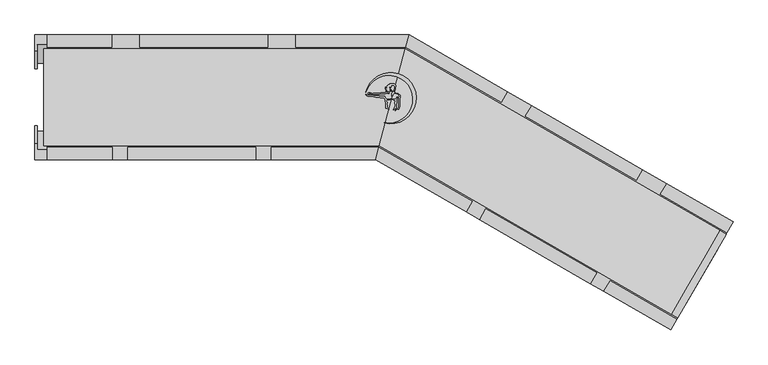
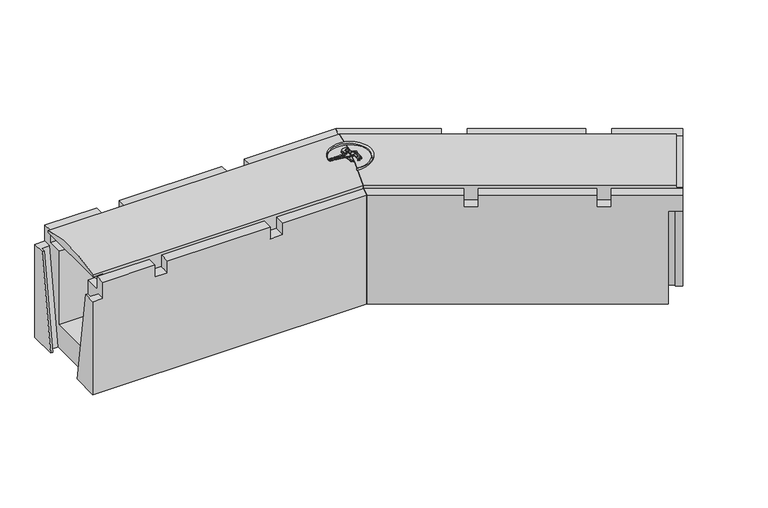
"""IFC4 building model written with IfcOpenShell, lengths in millimetres: cable carrier fitting geometry, Evotray type 1 horizontal bend : Evotray type 1 horizontal bend."""

from ifc_helpers import new_model, si_unit, point, frame, frame_2d, origin, place, context, project, spatial, polyline, circle_curve, ellipse_curve, trimmed, segment, composite_curve, outline, extrude, faceted_brep, source, transform, mapped, element, save
from ifc_brep_helpers import plane_surface, cylinder_surface, advanced_brep


def cable_carrier_fitting_ffa84dba(model_context):
    return source(origin(), model_context, "Body", "SolidModel", [
        extrude(outline(composite_curve([segment(polyline([(77.8454352, 7.5339815), (79.2711262, 6.7108584), (78.5621949, 6.3015567), (75.9972651, 6.3015567), (73.5377718, 3.8420634), (73.5377718, 2.2583954), (72.4802578, 1.9750354), (72.1488907, 3.2117144), (72.4711121, 4.414261), (72.4711121, 6.6410761), (73.9376527, 8.1076167), (73.5377718, 8.8002309), (72.4711121, 9.4160672), (71.6128402, 9.9115907), (70.6197166, 10.9047143), (70.6197166, 12.1547711), (71.4075108, 11.6999379), (72.4711121, 10.6363367), (73.5377718, 10.0205004), (75.8505364, 10.0205004), (76.4824351, 10.6523991), (76.4824351, 12.2608037), (76.8882921, 12.9637687), (77.1278621, 13.8578561), (77.1278621, 17.953291), (76.4824351, 18.598718), (72.4711121, 18.9496633), (71.722948, 18.5177106), (71.2910994, 17.769727), (71.068706, 16.9397435), (70.7959896, 15.393092), (70.2399679, 15.9491137), (69.674312, 16.5147695), (68.7137771, 16.5147695), (68.2393377, 15.6930164), (68.2393377, 14.868111), (68.6413849, 14.1717449), (69.3690796, 13.4440503), (68.9724402, 11.9637721), (68.6349402, 10.7042051), (68.9377477, 8.9868987), (68.1369546, 8.8456973), (66.4065093, 9.3093687), (65.1598, 9.8907188), (64.4065429, 10.2419684), (62.8070943, 9.9599424), (63.2746527, 10.7697774), (64.9314737, 11.3728109)]), True, "CONTINUOUS"), segment(trimmed(circle_curve(frame_2d((64.3653461, 11.1008716)), 0.6280537), [point((64.9314737, 11.3728109))], [point((64.209764, 11.7093497))], True, "CARTESIAN"), True, "CONTINUOUS"), segment(polyline([(64.209764, 11.7093497), (62.2627489, 11.7093497), (62.820927, 12.2675278), (63.6717068, 12.5771863), (64.4901463, 12.875074)]), True, "CONTINUOUS"), segment(trimmed(circle_curve(frame_2d((63.7518214, 12.875074)), 0.7383249), [point((64.4901463, 12.875074))], [point((63.7518214, 13.6133989))], True, "CARTESIAN"), True, "CONTINUOUS"), segment(polyline([(63.7518214, 13.6133989), (62.0440737, 13.6133989), (61.6525521, 14.2915342), (63.4711442, 14.612201), (64.7674822, 15.0840295), (64.1467296, 15.7047821), (62.18351, 15.7047821), (62.7360925, 16.2573646), (63.7659252, 16.8519388), (64.4406496, 17.5266631), (65.1634669, 17.9439819), (66.1384789, 18.5069053)]), True, "CONTINUOUS"), segment(trimmed(circle_curve(frame_2d((65.9274935, 18.8723428)), 0.4219708), [point((66.1384789, 18.5069053))], [point((65.7165081, 19.2377802))], True, "CARTESIAN"), True, "CONTINUOUS"), segment(polyline([(65.7165081, 19.2377802), (66.3339047, 19.8551768), (67.6365747, 20.3293099), (68.6316313, 20.9038061), (69.7631679, 21.1033266), (69.4093421, 22.0754549), (74.4093421, 22.0754549), (75.4235159, 21.6025379), (76.5453709, 21.3019378), (77.559817, 20.716247), (78.6684934, 19.6075706), (78.6684934, 17.0415553), (78.1795763, 16.1947259), (78.1795763, 13.46269), (77.6905414, 12.4139512), (77.2837395, 11.7093497), (77.2837395, 9.8605854), (76.4824351, 9.3979521), (75.6491566, 9.2510226)]), True, "CONTINUOUS"), segment(trimmed(circle_curve(frame_2d((76.7021081, 8.9688851)), 1.0900956), [point((75.6491566, 9.2510226))], [point((76.4199706, 7.9159336))], True, "CARTESIAN"), True, "CONTINUOUS"), segment(polyline([(76.4199706, 7.9159336), (77.8454352, 7.5339815)]), True, "CONTINUOUS")], self_intersect=False)), frame((0.0, 0.0, 223.75), z_axis=(0.0, 0.0, 1.0), x_axis=(1.0, 0.0, 0.0)), (0.0, 0.0, 1.0), 22.5),
        extrude(outline(polyline([(82.4021444, 4.6789788), (80.4795004, 5.7890178), (81.6687405, 6.1076737), (83.0435959, 5.6072673), (85.1697451, 4.3797345), (85.5813945, 2.8434379), (85.5813945, 0.0702487), (85.1630136, -2.3025073), (84.8368765, -11.6418533), (84.8368765, -14.4967502), (84.2772285, -17.6706715), (83.1182044, -18.8296956), (82.2207158, -18.8296956), (82.89559, -16.975494), (83.2045456, -15.2233198), (83.7190029, -12.3056877), (83.7190029, -1.066223), (84.1606375, 1.4384114), (83.6181606, 3.4629626), (82.4021444, 4.6789788)])), frame((0.0, 0.0, 223.75), z_axis=(0.0, 0.0, 1.0), x_axis=(1.0, 0.0, 0.0)), (0.0, 0.0, 1.0), 22.5),
        extrude(outline(composite_curve([segment(polyline([(74.9738955, -2.929042), (76.9560969, -2.929042), (78.4243612, -2.6701473), (79.7296433, -1.3648653), (80.9097521, 1.1658863), (81.3907041, -0.1555184), (80.7679964, -1.4909195), (80.0973889, -2.929042), (80.0973889, -8.8872378), (79.6690098, -11.3166965), (79.6690098, -19.7978385), (78.2203511, -21.2464971), (77.6476139, -20.6737599), (78.3263339, -18.9313898), (78.5844792, -17.4673747)]), True, "CONTINUOUS"), segment(trimmed(circle_curve(frame_2d((78.1698312, -17.4673747)), 0.414648), [point((78.5844792, -17.4673747))], [point((77.7551832, -17.4673747))], True, "CARTESIAN"), True, "CONTINUOUS"), segment(polyline([(77.7551832, -17.4673747), (76.9894944, -18.2330635), (75.7226479, -19.7428323), (75.0671389, -20.3983414), (74.2748176, -20.0288759), (76.4390375, -16.820288), (76.7449472, -15.0853881), (77.5870051, -13.2795892), (77.8442126, -11.8208929), (77.0557039, -10.4551557), (77.0557039, -7.6886085), (78.3788523, -5.8190518)]), True, "CONTINUOUS"), segment(trimmed(circle_curve(frame_2d((78.0417473, -5.5804712)), 0.4129897), [point((78.3788523, -5.8190518))], [point((77.8031667, -5.2433662))], True, "CARTESIAN"), True, "CONTINUOUS"), segment(polyline([(77.8031667, -5.2433662), (75.7993517, -4.8900395), (74.3554552, -4.2167395), (72.5354546, -3.3680593), (72.5354546, -2.499079), (74.9738955, -2.929042)]), True, "CONTINUOUS")], self_intersect=False)), frame((0.0, 0.0, 223.75), z_axis=(0.0, 0.0, 1.0), x_axis=(1.0, 0.0, 0.0)), (0.0, 0.0, 1.0), 22.5),
        extrude(outline(composite_curve([segment(polyline([(32.5622996, 3.8801527), (34.2979734, 3.0707947), (38.4844473, 3.0707947), (39.5551684, 3.3576935), (40.8817061, 3.3576935), (42.6028149, 3.0707947), (44.6091369, 2.5332023), (45.762325, 2.2242065), (51.4542317, 2.2242065), (54.0707276, 1.7880518), (55.3982903, 1.4323324), (61.0125326, 1.4323324)]), True, "CONTINUOUS"), segment(trimmed(circle_curve(frame_2d((69.8660987, 4.337939)), 9.3181642), [point((61.0125326, 1.4323324))], [point((64.3668003, -3.184421))], True, "CARTESIAN"), True, "CONTINUOUS"), segment(polyline([(64.3668003, -3.184421), (67.4185851, -3.184421), (69.4531637, -3.0064185), (70.5921676, -2.4752922), (70.3346477, -3.4363696), (69.3905534, -3.9814427), (68.4318665, -4.3303762), (65.1971615, -4.2174178), (64.0084669, -4.6500673), (63.5994725, -5.5271586), (63.6745531, -6.3853337), (64.1534373, -7.2147854), (64.8740428, -7.9353909), (64.8740428, -9.6916034), (64.5087425, -10.6952577), (64.6530091, -12.3442325), (65.1581015, -14.2292627), (65.3062206, -15.9222719), (67.6775556, -18.6501808), (67.4688787, -19.8336466), (64.8740428, -17.2388107), (63.9112112, -17.4968007), (62.508035, -17.2493828), (62.7835954, -16.4922869), (62.7835954, -14.2182314), (62.9591992, -13.2223327), (62.7835954, -11.2151718), (62.4079329, -10.1830477), (62.4079329, -8.3578648), (61.9615972, -7.4006948), (61.9615972, -5.0229453), (61.713157, -4.0957537), (61.2611867, -3.3129181), (60.8124749, -2.5357266), (60.1980325, -1.9212842), (59.7641812, -0.9908871), (56.163243, -0.8651396), (53.819091, -0.4743831), (51.7864977, 0.0702487), (48.4448781, 0.4214671), (46.3652651, 0.4214671), (45.0230305, 0.7811177), (43.4994355, 1.1893638), (42.1561822, 1.8157331), (41.1617934, 1.8157331), (38.5103531, 1.8157331), (37.3981089, 1.5177082), (35.534827, 1.713547), (34.0457522, 1.9617671), (32.3724446, 2.7420433), (31.3965182, 3.7179696), (30.7574352, 4.3570527), (30.7574352, 5.1439324), (32.5622996, 3.8801527)]), True, "CONTINUOUS")], self_intersect=False)), frame((0.0, 0.0, 223.75), z_axis=(0.0, 0.0, 1.0), x_axis=(1.0, 0.0, 0.0)), (0.0, 0.0, 1.0), 22.5),
        extrude(outline(composite_curve([segment(polyline([(35.0645322, 5.4241248), (36.0878465, 4.833314), (34.3601861, 5.3529849), (34.0300396, 6.2705486), (34.868364, 7.108873), (37.7411825, 7.108873), (38.7256195, 6.7111347), (39.8161083, 6.2705486), (40.6143019, 5.8097113), (41.874532, 5.8097113), (42.695557, 6.1051225), (43.5808093, 6.6162232), (49.9945143, 6.6162232), (50.8500888, 6.2705486), (51.9204909, 6.2705486), (52.8812111, 6.6162232), (54.0603677, 6.6162232), (54.7787068, 7.0309564), (60.191362, 7.0309564), (60.9516427, 7.3045113), (62.1938007, 7.3045113), (62.7695693, 7.8802798), (64.7271327, 7.8802798), (66.0151338, 7.3598936), (67.0270502, 6.7756634), (67.8314913, 6.4506481)]), True, "CONTINUOUS"), segment(trimmed(circle_curve(frame_2d((67.4241589, 6.2860752)), 0.4393221), [point((67.8314913, 6.4506481))], [point((67.2595859, 5.8787428))], False, "CARTESIAN"), True, "CONTINUOUS"), segment(polyline([(67.2595859, 5.8787428), (66.2438573, 6.2891238), (64.9321995, 6.2891238), (63.6617695, 6.5131349), (62.8497451, 6.2209622), (61.7067712, 5.8097113), (58.3625732, 5.8097113), (57.5714999, 5.3529849), (54.0041796, 5.3529849), (53.1213173, 4.8432641), (43.1213173, 4.8432641), (40.5106532, 4.6148606), (36.8221255, 6.1051225), (34.671358, 6.1051225), (35.0645322, 5.4241248)]), True, "CONTINUOUS")], self_intersect=False)), frame((0.0, 0.0, 223.75), z_axis=(0.0, 0.0, 1.0), x_axis=(1.0, 0.0, 0.0)), (0.0, 0.0, 1.0), 22.5),
        extrude(outline(composite_curve([segment(trimmed(circle_curve(frame_2d((67.6447922, -3.2457098)), 38.3616107), [point((60.2369555, -40.8852785))], [point((30.9332569, 7.8842657))], True, "CARTESIAN"), True, "CONTINUOUS"), segment(trimmed(circle_curve(frame_2d((70.774193, -1.3653761)), 40.900563), [point((30.9332569, 7.8842657))], [point((60.2369555, -40.8852785))], False, "CARTESIAN"), True, "CONTINUOUS")], self_intersect=False)), frame((0.0, 0.0, 223.75), z_axis=(0.0, 0.0, 1.0), x_axis=(1.0, 0.0, 0.0)), (0.0, 0.0, 1.0), 22.5),
        advanced_brep(
        [(530.8652423, -353.7195092, 205.0), (52.4390183, -77.5, 205.0), (93.9711432, 77.5, 205.0), (608.3652423, -219.4855716, 205.0), (608.3652423, -219.4855716, 230.0), (530.8652423, -353.7195092, 230.0), (93.9711432, 77.5, 234.0), (597.9729374, -213.4855716, 234.0), (597.9729374, -213.4855716, 230.0), (52.4390183, -77.5, 234.0), (520.4729374, -347.7195092, 230.0), (520.4729374, -347.7195092, 234.0)],
        [
            (0, 1),
            (1, 2),
            (2, 3),
            (3, 0),
            (3, 4),
            (4, 5),
            (5, 0),
            (2, 6),
            (6, 7),
            (7, 8),
            (8, 4),
            (1, 9),
            (9, 6, ellipse_curve(frame((73.2050808, 0.0, -14.2614294), z_axis=(-0.9659258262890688, 0.2588190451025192, 0.0), x_axis=(-0.2588190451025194, -0.9659258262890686, 0.0)), 269.2514065, 260.0768873)),
            (5, 10),
            (10, 11),
            (11, 9),
            (8, 10),
            (7, 11, circle_curve(frame((559.2229374, -280.6025404, -14.2614294), z_axis=(0.8660254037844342, -0.500000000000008, 0.0), x_axis=(-0.500000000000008, -0.8660254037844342, 0.0)), 260.0768873)),
        ],
        [
            plane_surface(frame((609.6152423, -217.3205081, 205.0), z_axis=(0.0, 0.0, -1.0), x_axis=(-0.5000000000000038, -0.8660254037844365, 0.0))),
            plane_surface(frame((530.8652423, -353.7195092, 246.0), z_axis=(0.8660254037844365, -0.5000000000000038, 0.0), x_axis=(0.0, 0.0, -1.0))),
            plane_surface(frame((608.3652423, -219.4855716, 246.0), z_axis=(0.5000000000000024, 0.8660254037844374, 0.0), x_axis=(0.0, 0.0, -1.0))),
            plane_surface(frame((93.9711432, 77.5, 246.0), z_axis=(-0.9659258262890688, 0.2588190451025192, 0.0), x_axis=(0.0, 0.0, -1.0))),
            plane_surface(frame((52.4390183, -77.5, 246.0), z_axis=(-0.5000000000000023, -0.8660254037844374, 0.0), x_axis=(0.0, 0.0, -1.0))),
            plane_surface(frame((520.4229374, -347.8061117, 230.0), z_axis=(0.0, 0.0, 1.0), x_axis=(0.5000000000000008, 0.8660254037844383, 0.0))),
            plane_surface(frame((597.9729374, -213.4855716, 246.0), z_axis=(0.8660254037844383, -0.5000000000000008, 0.0), x_axis=(0.0, 0.0, -1.0))),
            cylinder_surface(frame((73.2050808, 0.0, -14.2614294), z_axis=(0.8660254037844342, -0.500000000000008, 0.0), x_axis=(-0.500000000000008, -0.8660254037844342, 0.0)), 260.0768873),
        ],
        [
            (0, [[1, 2, 3, 4]]),
            (1, [[-4, 5, 6, 7]]),
            (2, [[-3, 8, 9, 10, 11, -5]]),
            (3, [[-2, 12, 13, -8]]),
            (4, [[-1, -7, 14, 15, 16, -12]]),
            (5, [[17, -14, -6, -11]]),
            (6, [[-17, -10, 18, -15]]),
            (7, [[-9, -13, -16, -18]]),
        ],
    ),
        advanced_brep(
        [(93.9711432, 77.5, 205.0), (52.4390183, -77.5, 205.0), (-466.0, -77.5, 205.0), (-466.0, 77.5, 205.0), (52.4390183, -77.5, 230.0), (52.4390183, -77.5, 234.0), (-486.0, -77.5, 234.0), (-486.0, -77.5, 230.0), (-466.0, -77.5, 230.0), (93.9711432, 77.5, 230.0), (93.9711432, 77.5, 234.0), (-466.0, 77.5, 230.0), (-486.0, 77.5, 230.0), (-486.0, 77.5, 234.0)],
        [
            (0, 1),
            (1, 2),
            (2, 3),
            (3, 0),
            (1, 4),
            (4, 5),
            (5, 6),
            (6, 7),
            (7, 8),
            (8, 2),
            (0, 9),
            (9, 10),
            (10, 5, ellipse_curve(frame((73.2050808, 0.0, -14.2614294), z_axis=(0.9659258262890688, -0.2588190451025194, 0.0), x_axis=(0.25881904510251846, 0.9659258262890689, 0.0)), 269.2514065, 260.0768873)),
            (3, 11),
            (11, 12),
            (12, 13),
            (13, 10),
            (12, 7),
            (6, 13, circle_curve(frame((-486.0, 0.0, -14.2614294), z_axis=(-1.0, 0.0, 0.0), x_axis=(0.0, -1.0, 0.0)), 260.0768873)),
            (11, 8),
        ],
        [
            plane_surface(frame((-77.5, -77.5, 205.0), z_axis=(0.0, 0.0, -1.0), x_axis=(-1.0, 0.0, 0.0))),
            plane_surface(frame((-486.0, -77.5, 246.0), z_axis=(0.0, -1.0, 0.0), x_axis=(0.0, 0.0, -1.0))),
            plane_surface(frame((52.4390183, -77.5, 246.0), z_axis=(0.9659258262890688, -0.2588190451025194, 0.0), x_axis=(0.0, 0.0, -1.0))),
            plane_surface(frame((93.9711432, 77.5, 246.0), z_axis=(0.0, 1.0, 0.0), x_axis=(0.0, 0.0, -1.0))),
            plane_surface(frame((-486.0, 77.5, 246.0), z_axis=(-1.0, 0.0, 0.0), x_axis=(0.0, 0.0, -1.0))),
            plane_surface(frame((-486.0, 77.5, 230.0), z_axis=(0.0, 0.0, -1.0), x_axis=(-1.0, 0.0, 0.0))),
            plane_surface(frame((-466.0, -77.5, 230.0), z_axis=(-1.0, 0.0, 0.0), x_axis=(0.0, 0.0, -1.0))),
            cylinder_surface(frame((-486.0, 0.0, -14.2614294), z_axis=(1.0, 0.0, 0.0), x_axis=(0.0, -1.0, 0.0)), 260.0768873),
        ],
        [
            (0, [[1, 2, 3, 4]]),
            (1, [[5, 6, 7, 8, 9, 10, -2]]),
            (2, [[-1, 11, 12, 13, -6, -5]]),
            (3, [[-11, -4, 14, 15, 16, 17, -12]]),
            (4, [[18, -8, 19, -16]]),
            (5, [[20, -9, -18, -15]]),
            (6, [[-20, -14, -3, -10]]),
            (7, [[-7, -13, -17, -19]]),
        ],
    ),
        faceted_brep([(51.7691454, -80.0, 230.0), (46.4101615, -100.0, 230.0), (191.3916142, -183.7050808, 230.0), (201.3916142, -166.3845727, 230.0), (100.0, 100.0, 230.0), (94.6410162, 80.0, 230.0), (247.6166235, -8.3205081, 230.0), (257.6166235, 9.0, 230.0), (609.6152423, -217.3205081, 230.0), (619.6152423, -200.0, 230.0), (513.0941176, -138.5, 230.0), (503.0941176, -155.8205081, 230.0), (519.6152423, -373.2050808, 230.0), (529.6152423, -355.8845727, 230.0), (422.2280922, -293.8845727, 230.0), (412.2280922, -311.2050808, 230.0), (474.1229744, -116.0, 230.0), (296.5877667, -13.5, 230.0), (286.5877667, -30.8205081, 230.0), (464.1229744, -133.3205081, 230.0), (213.0422493, -196.2050808, 230.0), (390.5774571, -298.7050808, 230.0), (400.5774571, -281.3845727, 230.0), (223.0422493, -178.8845727, 230.0), (46.4101615, -100.0, 0.0), (100.0, 100.0, 0.0), (597.9646072, -187.5, 0.0), (569.4646072, -236.863448, 0.0), (579.856912, -242.863448, 0.0), (581.056912, -240.784987, 0.0), (592.3152423, -247.284987, 0.0), (546.9152423, -325.9200937, 0.0), (535.656912, -319.4200937, 0.0), (536.856912, -317.3416327, 0.0), (526.4646072, -311.3416327, 0.0), (497.9646072, -360.7050808, 0.0), (257.6166235, 9.0, 205.0), (296.5877667, -13.5, 205.0), (474.1229744, -116.0, 205.0), (513.0941176, -138.5, 205.0), (619.6152423, -200.0, 196.0), (597.9646072, -187.5, 196.0), (51.7691454, -80.0, 205.0), (59.8076211, -50.0, 205.0), (59.8076211, -50.0, 50.0), (86.6025404, 50.0, 50.0), (86.6025404, 50.0, 205.0), (94.6410162, 80.0, 205.0), (497.9646072, -360.7050808, 196.0), (519.6152423, -373.2050808, 196.0), (412.2280922, -311.2050808, 205.0), (390.5774571, -298.7050808, 205.0), (213.0422493, -196.2050808, 205.0), (191.3916142, -183.7050808, 205.0), (529.6152423, -355.8845727, 196.0), (609.6152423, -217.3205081, 196.0), (609.6152423, -217.3205081, 205.0), (594.6152423, -243.3012702, 205.0), (594.6152423, -243.3012702, 50.0), (544.6152423, -329.9038106, 50.0), (544.6152423, -329.9038106, 205.0), (529.6152423, -355.8845727, 205.0), (518.356912, -349.3845727, 196.0), (509.1646072, -341.3061117, 196.0), (519.556912, -347.3061117, 196.0), (598.356912, -210.8205081, 196.0), (597.156912, -212.898969, 196.0), (586.7646072, -206.898969, 196.0), (201.3916142, -166.3845727, 205.0), (223.0422493, -178.8845727, 205.0), (400.5774571, -281.3845727, 205.0), (422.2280922, -293.8845727, 205.0), (503.0941176, -155.8205081, 205.0), (464.1229744, -133.3205081, 205.0), (286.5877667, -30.8205081, 205.0), (247.6166235, -8.3205081, 205.0)], [[[0, 1, 2, 3]], [[4, 5, 6, 7]], [[8, 9, 10, 11]], [[12, 13, 14, 15]], [[16, 17, 18, 19]], [[20, 21, 22, 23]], [[24, 25, 26, 27, 28, 29, 30, 31, 32, 33, 34, 35]], [[25, 4, 7, 36, 37, 17, 16, 38, 39, 10, 9, 40, 41, 26]], [[25, 24, 1, 0, 42, 43, 44, 45, 46, 47, 5, 4]], [[1, 24, 35, 48, 49, 12, 15, 50, 51, 21, 20, 52, 53, 2]], [[12, 49, 54, 31, 30, 55, 40, 9, 8, 56, 57, 58, 59, 60, 61, 13]], [[62, 54, 49, 48, 63, 64]], [[54, 62, 32, 31]], [[55, 65, 66, 67, 41, 40]], [[65, 55, 30, 29]], [[64, 33, 32, 62]], [[64, 63, 34, 33]], [[63, 48, 35, 34]], [[28, 66, 65, 29]], [[67, 66, 28, 27]], [[41, 67, 27, 26]], [[43, 42, 68, 53, 52, 69, 70, 51, 50, 71, 61, 60]], [[47, 46, 57, 56, 72, 39, 38, 73, 74, 37, 36, 75]], [[19, 18, 74, 73]], [[5, 47, 75, 6]], [[56, 8, 11, 72]], [[23, 22, 70, 69]], [[42, 0, 3, 68]], [[13, 61, 71, 14]], [[58, 45, 44, 59]], [[45, 58, 57, 46]], [[59, 44, 43, 60]], [[51, 70, 22, 21]], [[71, 50, 15, 14]], [[75, 36, 7, 6]], [[37, 74, 18, 17]], [[73, 38, 16, 19]], [[39, 72, 11, 10]], [[53, 68, 3, 2]], [[69, 52, 20, 23]]]),
        faceted_brep([(46.4101615, -100.0, 230.0), (51.7691454, -80.0, 230.0), (-121.0, -80.0, 230.0), (-121.0, -100.0, 230.0), (94.6410162, 80.0, 230.0), (100.0, 100.0, 230.0), (-82.0, 100.0, 230.0), (-82.0, 80.0, 230.0), (-127.0, 100.0, 230.0), (-332.0, 100.0, 230.0), (-332.0, 80.0, 230.0), (-127.0, 80.0, 230.0), (-376.0, -100.0, 230.0), (-376.0, -80.0, 230.0), (-480.0, -80.0, 230.0), (-480.0, -100.0, 230.0), (-377.0, 80.0, 230.0), (-377.0, 100.0, 230.0), (-480.0, 100.0, 230.0), (-480.0, 80.0, 230.0), (-351.0, -100.0, 230.0), (-146.0, -100.0, 230.0), (-146.0, -80.0, 230.0), (-351.0, -80.0, 230.0), (-500.0, 100.0, 0.0), (100.0, 100.0, 0.0), (46.4101615, -100.0, 0.0), (-500.0, -100.0, 0.0), (-500.0, -45.5, 0.0), (-496.0, -45.5, 0.0), (-496.0, -54.6, 0.0), (-480.0, -54.6, 0.0), (-480.0, 54.6, 0.0), (-496.0, 54.6, 0.0), (-496.0, 45.4, 0.0), (-500.0, 45.4, 0.0), (-500.0, 100.0, 196.0), (-500.0, 74.8852174, 196.0), (-500.0, -100.0, 196.0), (-500.0, -74.9, 196.0), (-121.0, -100.0, 205.0), (-146.0, -100.0, 205.0), (-351.0, -100.0, 205.0), (-376.0, -100.0, 205.0), (-480.0, -100.0, 196.0), (94.6410162, 80.0, 205.0), (86.6025404, 50.0, 205.0), (86.6025404, 50.0, 50.0), (59.8076211, -50.0, 50.0), (59.8076211, -50.0, 205.0), (51.7691454, -80.0, 205.0), (-480.0, 100.0, 196.0), (-377.0, 100.0, 205.0), (-332.0, 100.0, 205.0), (-127.0, 100.0, 205.0), (-82.0, 100.0, 205.0), (-82.0, 80.0, 205.0), (-127.0, 80.0, 205.0), (-332.0, 80.0, 205.0), (-377.0, 80.0, 205.0), (-480.0, 80.0, 205.0), (-480.0, 77.5, 205.0), (-480.0, 50.0, 205.0), (-466.0, 50.0, 205.0), (-466.0, -50.0, 205.0), (-480.0, -50.0, 205.0), (-480.0, -77.5, 205.0), (-480.0, -80.0, 205.0), (-376.0, -80.0, 205.0), (-351.0, -80.0, 205.0), (-146.0, -80.0, 205.0), (-121.0, -80.0, 205.0), (-480.0, 50.0, 50.0), (-480.0, -50.0, 50.0), (-480.0, -84.0852174, 196.0), (-496.0, -84.0852174, 196.0), (-496.0, -74.9, 196.0), (-496.0, 74.8852174, 196.0), (-496.0, 84.0, 196.0), (-480.0, 84.0, 196.0)], [[[0, 1, 2, 3]], [[4, 5, 6, 7]], [[8, 9, 10, 11]], [[12, 13, 14, 15]], [[16, 17, 18, 19]], [[20, 21, 22, 23]], [[24, 25, 26, 27, 28, 29, 30, 31, 32, 33, 34, 35]], [[36, 24, 35, 37]], [[27, 38, 39, 28]], [[27, 26, 0, 3, 40, 41, 21, 20, 42, 43, 12, 15, 44, 38]], [[26, 25, 5, 4, 45, 46, 47, 48, 49, 50, 1, 0]], [[25, 24, 36, 51, 18, 17, 52, 53, 9, 8, 54, 55, 6, 5]], [[46, 45, 56, 55, 54, 57, 58, 53, 52, 59, 60, 61, 62, 63]], [[50, 49, 64, 65, 66, 67, 68, 43, 42, 69, 70, 41, 40, 71]], [[23, 22, 70, 69]], [[1, 50, 71, 2]], [[13, 68, 67, 14]], [[11, 10, 58, 57]], [[45, 4, 7, 56]], [[59, 16, 19, 60]], [[48, 47, 72, 73]], [[47, 46, 63, 62, 72]], [[49, 48, 73, 65, 64]], [[43, 68, 13, 12]], [[69, 42, 20, 23]], [[59, 52, 17, 16]], [[53, 58, 10, 9]], [[57, 54, 8, 11]], [[55, 56, 7, 6]], [[38, 44, 74, 75, 76, 39]], [[51, 36, 37, 77, 78, 79]], [[44, 15, 14, 67, 66, 65, 73, 72, 62, 61, 60, 19, 18, 51, 79, 32, 31, 74]], [[35, 34, 77, 37]], [[29, 28, 39, 76]], [[32, 79, 78, 33]], [[33, 78, 77, 34]], [[75, 30, 29, 76]], [[74, 31, 30, 75]], [[41, 70, 22, 21]], [[71, 40, 3, 2]]]),
    ])


if __name__ == "__main__":
    model = new_model("IFC4")
    model_context = context("Model", 3, world=origin())
    ifc_project = project(units=[si_unit("LENGTHUNIT", "METRE", prefix="MILLI")], contexts=[model_context])
    site = spatial("IfcSite", under=ifc_project)
    building = spatial("IfcBuilding", under=site)
    placement = place(None, origin())
    cable_carrier_fitting_shape = cable_carrier_fitting_ffa84dba(model_context)
    element("IfcCableCarrierFitting", 1, ObjectType="Evotray type 1 horizontal bend : Evotray type 1 horizontal bend", at=placement, inside=building, context=model_context, shape_type="MappedRepresentation", body=[
        mapped(cable_carrier_fitting_shape, transform((0.0, 0.0, 0.0), x_axis=(1.0, 0.0, 0.0), y_axis=(0.0, 1.0, 0.0), z_axis=(0.0, 0.0, 1.0))),
    ])
    save(model, "model.ifc")
